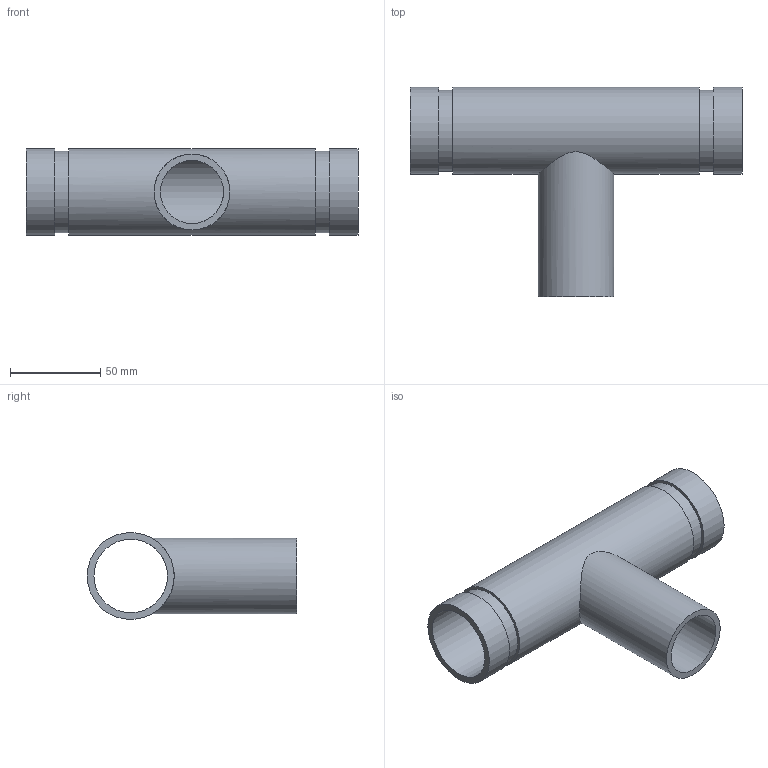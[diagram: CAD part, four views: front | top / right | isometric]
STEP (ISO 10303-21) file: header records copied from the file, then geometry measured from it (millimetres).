
FILE_DESCRIPTION(/* description */ ('VIC REDUCING TEE No 29T FFT (OGSxMPT)','CAx-IF Rec.Pracs.---Representation and Presentation of Product Manufacturing Information (PMI)---4.0---2014-10-13'),/* implementation_level */ '2;1');
FILE_NAME(/* name */ 'C:\Users\kkamble\AppData\Roaming\Autodesk\ApplicationPlugins\Back Up\Victaulic_IPS_Tee Reducing_No 29T FFT (OGSxMPT)\Victaulic_IPS_Tee Reducing_No 29T FFT (OGSxMPT)_01.5x 01.25 (40x32).stp',/* time_stamp */ '2020-09-16T22:36:58+05:00',/* author */ ('CORINNE GRAY'),/* organization */ ('Victaulic'),/* preprocessor_version */ 'ST-DEVELOPER v17.2',/* originating_system */ 'Autodesk Inventor 2019',/* authorisation */ '');
FILE_SCHEMA (('AP242_MANAGED_MODEL_BASED_3D_ENGINEERING_MIM_LF { 1 0 10303 442 1 1 4 }'));
Length unit declared in the file: inch
Products named in the file (1): 29 FFT-01.5x01.25
Bounding box: 184.4 x 116.33 x 48.26 mm (x, y, z)
Volume: 118821.9 mm3; surface area: 69359.9 mm2
Topology: 1 solids, 1 shells, 15 faces, 32 edges, 24 vertices
Faces by surface type: cylinder 8, plane 7
Full cylindrical faces by diameter (mm): 35.052 x1, 40.894 x1, 42.164 x1, 45.085 x2, 48.26 x3
Entity records: 709 total; most frequent: CARTESIAN_POINT 221, DIRECTION 106, ORIENTED_EDGE 64, AXIS2_PLACEMENT_3D 49, EDGE_CURVE 32, EDGE_LOOP 24, VERTEX_POINT 24, CIRCLE 20
